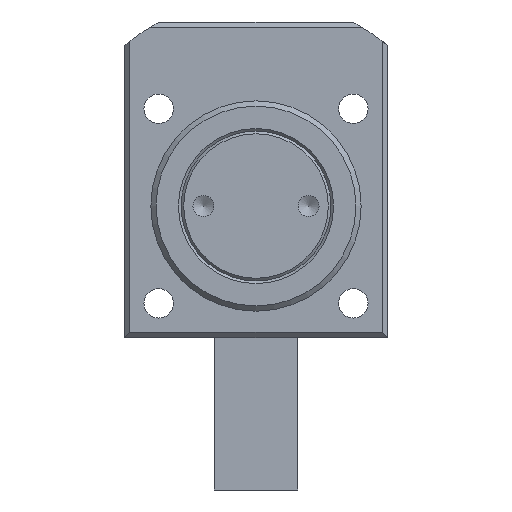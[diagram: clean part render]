
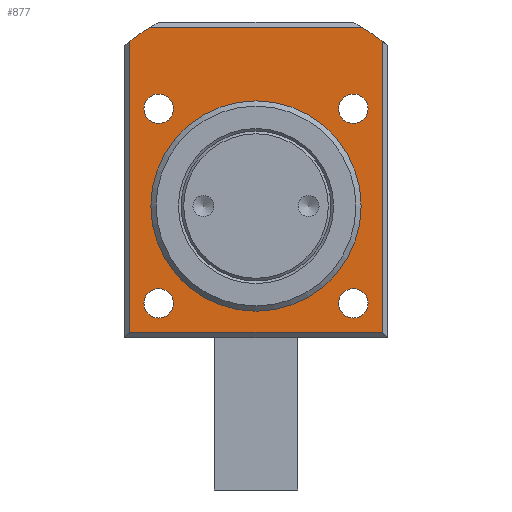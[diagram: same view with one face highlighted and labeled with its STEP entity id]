
A CAD part, front view. The second image highlights one B-rep face of the part: STEP entity #877.
In plain terms, the highlighted planar face has unit normal (0, -1, 0).
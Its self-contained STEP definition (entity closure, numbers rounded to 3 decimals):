
#255=FACE_BOUND('',#1388,.T.);
#256=FACE_BOUND('',#1389,.T.);
#257=FACE_BOUND('',#1390,.T.);
#258=FACE_BOUND('',#1391,.T.);
#259=FACE_BOUND('',#1392,.T.);
#260=FACE_BOUND('',#1393,.T.);
#376=LINE('',#5065,#628);
#377=LINE('',#5067,#629);
#378=LINE('',#5069,#630);
#379=LINE('',#5070,#631);
#628=VECTOR('',#4005,1.);
#629=VECTOR('',#4006,1.);
#630=VECTOR('',#4007,1.);
#631=VECTOR('',#4008,1.);
#877=ADVANCED_FACE('',(#255,#256,#257,#258,#259,#260),#1086,.T.);
#1086=PLANE('',#3533);
#1388=EDGE_LOOP('',(#1705));
#1389=EDGE_LOOP('',(#1706));
#1390=EDGE_LOOP('',(#1707));
#1391=EDGE_LOOP('',(#1708));
#1392=EDGE_LOOP('',(#1709));
#1393=EDGE_LOOP('',(#1710,#1711,#1712,#1713,#1714,#1715));
#1705=ORIENTED_EDGE('',*,*,#2876,.F.);
#1706=ORIENTED_EDGE('',*,*,#2878,.F.);
#1707=ORIENTED_EDGE('',*,*,#2880,.F.);
#1708=ORIENTED_EDGE('',*,*,#2882,.F.);
#1709=ORIENTED_EDGE('',*,*,#2906,.F.);
#1710=ORIENTED_EDGE('',*,*,#2891,.T.);
#1711=ORIENTED_EDGE('',*,*,#2907,.T.);
#1712=ORIENTED_EDGE('',*,*,#2908,.T.);
#1713=ORIENTED_EDGE('',*,*,#2909,.T.);
#1714=ORIENTED_EDGE('',*,*,#2900,.T.);
#1715=ORIENTED_EDGE('',*,*,#2910,.T.);
#2557=VERTEX_POINT('',#5003);
#2559=VERTEX_POINT('',#5008);
#2561=VERTEX_POINT('',#5013);
#2563=VERTEX_POINT('',#5018);
#2569=VERTEX_POINT('',#5034);
#2570=VERTEX_POINT('',#5036);
#2575=VERTEX_POINT('',#5051);
#2576=VERTEX_POINT('',#5053);
#2579=VERTEX_POINT('',#5064);
#2580=VERTEX_POINT('',#5066);
#2581=VERTEX_POINT('',#5068);
#2876=EDGE_CURVE('',#2557,#2557,#3315,.T.);
#2878=EDGE_CURVE('',#2559,#2559,#3317,.T.);
#2880=EDGE_CURVE('',#2561,#2561,#3319,.T.);
#2882=EDGE_CURVE('',#2563,#2563,#3321,.T.);
#2891=EDGE_CURVE('',#2570,#2569,#3323,.T.);
#2900=EDGE_CURVE('',#2576,#2575,#3326,.T.);
#2906=EDGE_CURVE('',#2579,#2579,#3327,.T.);
#2907=EDGE_CURVE('',#2569,#2580,#376,.T.);
#2908=EDGE_CURVE('',#2580,#2581,#377,.T.);
#2909=EDGE_CURVE('',#2581,#2576,#378,.T.);
#2910=EDGE_CURVE('',#2575,#2570,#379,.T.);
#3315=CIRCLE('',#3503,2.8);
#3317=CIRCLE('',#3506,2.8);
#3319=CIRCLE('',#3509,2.8);
#3321=CIRCLE('',#3512,2.8);
#3323=CIRCLE('',#3519,39.5);
#3326=CIRCLE('',#3527,39.5);
#3327=CIRCLE('',#3532,20.);
#3503=AXIS2_PLACEMENT_3D('',#5002,#3935,#3936);
#3506=AXIS2_PLACEMENT_3D('',#5007,#3941,#3942);
#3509=AXIS2_PLACEMENT_3D('',#5012,#3947,#3948);
#3512=AXIS2_PLACEMENT_3D('',#5017,#3953,#3954);
#3519=AXIS2_PLACEMENT_3D('',#5035,#3971,#3972);
#3527=AXIS2_PLACEMENT_3D('',#5052,#3990,#3991);
#3532=AXIS2_PLACEMENT_3D('',#5063,#4003,#4004);
#3533=AXIS2_PLACEMENT_3D('',#5071,#4009,#4010);
#3935=DIRECTION('',(0.,-1.,0.));
#3936=DIRECTION('',(0.,0.,-1.));
#3941=DIRECTION('',(0.,-1.,0.));
#3942=DIRECTION('',(0.,0.,-1.));
#3947=DIRECTION('',(0.,-1.,0.));
#3948=DIRECTION('',(0.,0.,-1.));
#3953=DIRECTION('',(0.,-1.,0.));
#3954=DIRECTION('',(0.,0.,-1.));
#3971=DIRECTION('',(0.,-1.,0.));
#3972=DIRECTION('',(0.,0.,-1.));
#3990=DIRECTION('',(0.,-1.,0.));
#3991=DIRECTION('',(0.,0.,-1.));
#4003=DIRECTION('',(0.,-1.,0.));
#4004=DIRECTION('',(0.,0.,-1.));
#4005=DIRECTION('',(0.,0.,-1.));
#4006=DIRECTION('',(1.,0.,0.));
#4007=DIRECTION('',(0.,0.,1.));
#4008=DIRECTION('',(-1.,0.,0.));
#4009=DIRECTION('',(0.,-1.,0.));
#4010=DIRECTION('',(0.,0.,1.));
#5002=CARTESIAN_POINT('',(-18.5,40.,18.5));
#5003=CARTESIAN_POINT('',(-18.5,40.,15.7));
#5007=CARTESIAN_POINT('',(18.5,40.,18.5));
#5008=CARTESIAN_POINT('',(18.5,40.,15.7));
#5012=CARTESIAN_POINT('',(18.5,40.,-18.5));
#5013=CARTESIAN_POINT('',(18.5,40.,-21.3));
#5017=CARTESIAN_POINT('',(-18.5,40.,-18.5));
#5018=CARTESIAN_POINT('',(-18.5,40.,-21.3));
#5034=CARTESIAN_POINT('',(-24.,40.,31.373));
#5035=CARTESIAN_POINT('',(0.,40.,0.));
#5036=CARTESIAN_POINT('',(-20.106,40.,34.));
#5051=CARTESIAN_POINT('',(20.106,40.,34.));
#5052=CARTESIAN_POINT('',(0.,40.,0.));
#5053=CARTESIAN_POINT('',(24.,40.,31.373));
#5063=CARTESIAN_POINT('',(0.,40.,0.));
#5064=CARTESIAN_POINT('',(0.,40.,-20.));
#5065=CARTESIAN_POINT('',(-24.,40.,-25.));
#5066=CARTESIAN_POINT('',(-24.,40.,-24.));
#5067=CARTESIAN_POINT('',(25.,40.,-24.));
#5068=CARTESIAN_POINT('',(24.,40.,-24.));
#5069=CARTESIAN_POINT('',(24.,40.,30.582));
#5070=CARTESIAN_POINT('',(-18.31,40.,34.));
#5071=CARTESIAN_POINT('',(-45.061,40.,0.));
